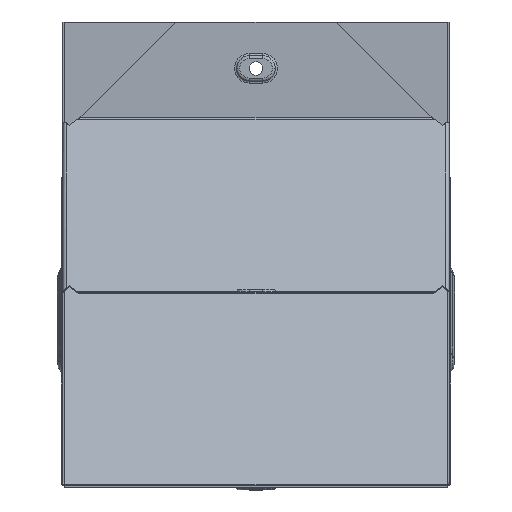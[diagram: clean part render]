
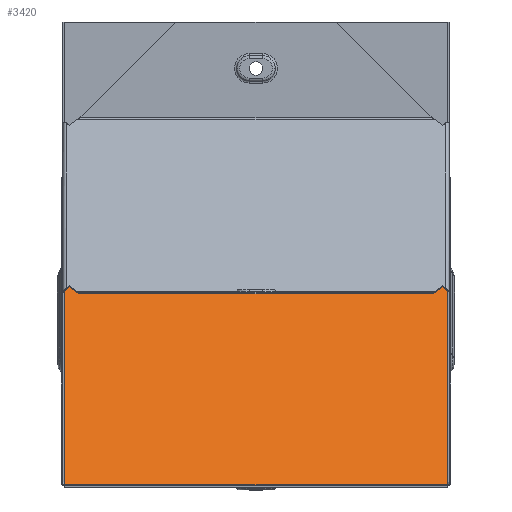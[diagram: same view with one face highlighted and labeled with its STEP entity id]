
A CAD part, front view. The second image highlights one B-rep face of the part: STEP entity #3420.
In plain terms, the highlighted planar face has unit normal (0, -0.707, 0.707).
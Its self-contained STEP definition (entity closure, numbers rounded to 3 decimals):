
#11 = LINE ( 'NONE', #6242, #221 ) ;
#161 = DIRECTION ( 'NONE',  ( -1., 0., 0. ) ) ;
#221 = VECTOR ( 'NONE', #161, 1000. ) ;
#406 = AXIS2_PLACEMENT_3D ( 'NONE', #4068, #1562, #6523 ) ;
#429 = ORIENTED_EDGE ( 'NONE', *, *, #5574, .F. ) ;
#434 = VERTEX_POINT ( 'NONE', #6970 ) ;
#439 = DIRECTION ( 'NONE',  ( -1., 0., 0. ) ) ;
#539 = LINE ( 'NONE', #6825, #3589 ) ;
#794 = FACE_OUTER_BOUND ( 'NONE', #6862, .T. ) ;
#1135 = EDGE_CURVE ( 'NONE', #434, #4341, #7118, .T. ) ;
#1562 = DIRECTION ( 'NONE',  ( 0., 0.707, -0.707 ) ) ;
#1959 = ORIENTED_EDGE ( 'NONE', *, *, #5015, .T. ) ;
#2011 = LINE ( 'NONE', #3749, #8078 ) ;
#2632 = EDGE_CURVE ( 'NONE', #2655, #5542, #11, .T. ) ;
#2655 = VERTEX_POINT ( 'NONE', #8148 ) ;
#3137 = ORIENTED_EDGE ( 'NONE', *, *, #1135, .T. ) ;
#3420 = ADVANCED_FACE ( 'NONE', ( #794 ), #7297, .F. ) ;
#3589 = VECTOR ( 'NONE', #4271, 1000. ) ;
#3749 = CARTESIAN_POINT ( 'NONE',  ( 99., 95.718, -95.718 ) ) ;
#4068 = CARTESIAN_POINT ( 'NONE',  ( 99., 95.718, -95.718 ) ) ;
#4229 = CARTESIAN_POINT ( 'NONE',  ( 99., 169.707, -21.73 ) ) ;
#4271 = DIRECTION ( 'NONE',  ( 0., -0.707, -0.707 ) ) ;
#4341 = VERTEX_POINT ( 'NONE', #4716 ) ;
#4716 = CARTESIAN_POINT ( 'NONE',  ( -99., 169.707, -21.73 ) ) ;
#5015 = EDGE_CURVE ( 'NONE', #4341, #5542, #539, .T. ) ;
#5542 = VERTEX_POINT ( 'NONE', #5654 ) ;
#5574 = EDGE_CURVE ( 'NONE', #434, #2655, #2011, .T. ) ;
#5597 = VECTOR ( 'NONE', #439, 1000. ) ;
#5654 = CARTESIAN_POINT ( 'NONE',  ( -99., 21.73, -169.707 ) ) ;
#5687 = DIRECTION ( 'NONE',  ( 0., -0.707, -0.707 ) ) ;
#5873 = ORIENTED_EDGE ( 'NONE', *, *, #2632, .F. ) ;
#6242 = CARTESIAN_POINT ( 'NONE',  ( 99., 21.73, -169.707 ) ) ;
#6523 = DIRECTION ( 'NONE',  ( 0., 0.707, 0.707 ) ) ;
#6825 = CARTESIAN_POINT ( 'NONE',  ( -99., 95.718, -95.718 ) ) ;
#6862 = EDGE_LOOP ( 'NONE', ( #1959, #5873, #429, #3137 ) ) ;
#6970 = CARTESIAN_POINT ( 'NONE',  ( 99., 169.707, -21.73 ) ) ;
#7118 = LINE ( 'NONE', #4229, #5597 ) ;
#7297 = PLANE ( 'NONE',  #406 ) ;
#8078 = VECTOR ( 'NONE', #5687, 1000. ) ;
#8148 = CARTESIAN_POINT ( 'NONE',  ( 99., 21.73, -169.707 ) ) ;
